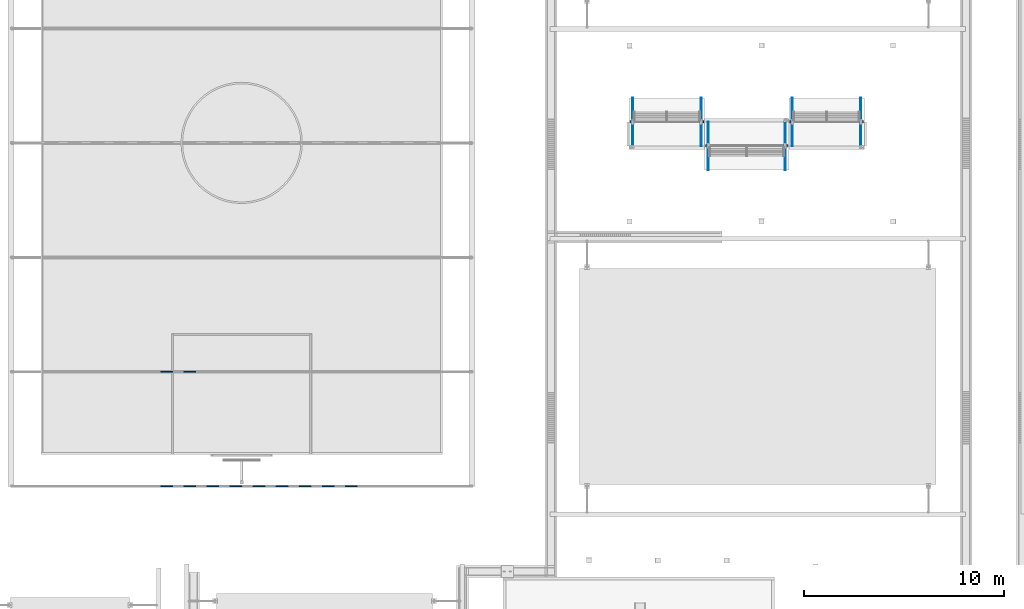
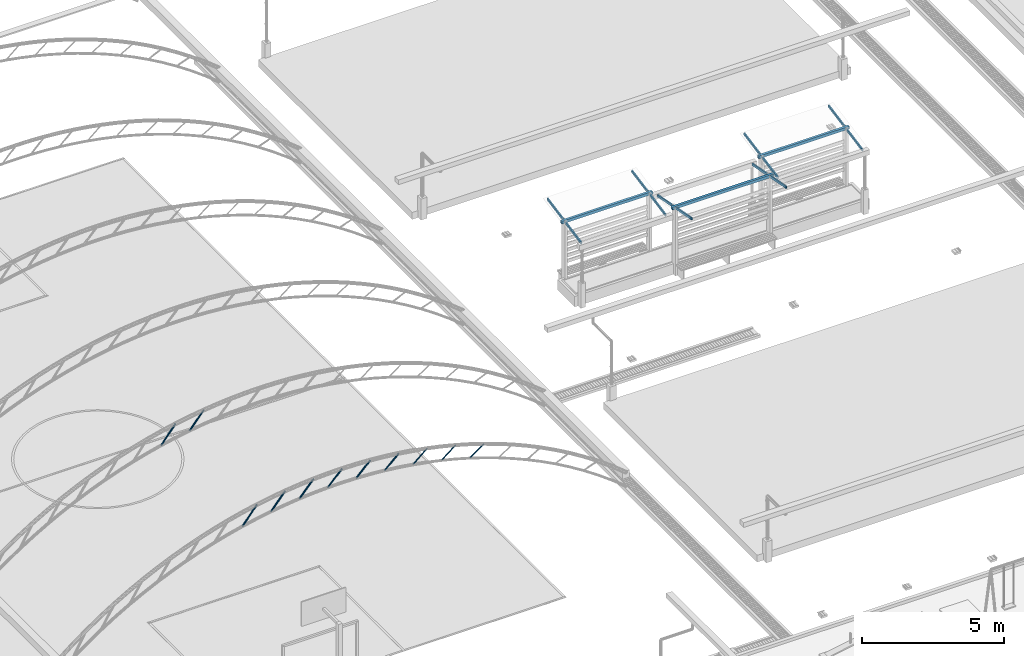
# One storey, part 17 of 90: 20 beams.
"""IFC2X3 building model written with IfcOpenShell, lengths in metres."""

from ifc_helpers import new_model, si_unit, origin, origin_with_axes, place, context, subcontext, project, spatial, faceted_brep, element, save


model = new_model("IFC2X3")

# Units and contexts
model_context = context("Model", 3, precision=1e-05, world=origin_with_axes())
body_context = subcontext(model_context, "Body", "Model", "MODEL_VIEW")
ifc_project = project(units=[si_unit("LENGTHUNIT", "METRE"), si_unit("AREAUNIT", "SQUARE_METRE"), si_unit("VOLUMEUNIT", "CUBIC_METRE"), si_unit("PLANEANGLEUNIT", "RADIAN")], contexts=[model_context])

# Site, building, storey
site_placement = place(None, origin_with_axes())
site = spatial("IfcSite", under=ifc_project, at=site_placement, Name="Predio Los Mangos - Morales, San Martín", CompositionType="ELEMENT")
building_placement = place(site_placement, origin())
building = spatial("IfcBuilding", under=site, at=building_placement, Name="Hogar de Refugio Temporal", CompositionType="ELEMENT")
storey_placement = place(building_placement, origin())
storey = spatial("IfcBuildingStorey", under=building, at=storey_placement, Name="NIVEL 1 (NPT +0.00)", CompositionType="ELEMENT", Elevation=0.0)

# Beams
beam_1_placement = place(storey_placement, origin())
element("IfcBeam", 1, at=beam_1_placement, inside=storey, Name="diag", ObjectType="Viga", context=body_context, shape_type="Brep", body=[
    faceted_brep([(10.9977, 92.6217, 9.0975), (11.5752, 92.6217, 9.8208), (11.585, 92.625, 9.813), (11.0075, 92.625, 9.0897), (10.9906, 92.6125, 9.1032), (11.5681, 92.6125, 9.8265), (10.988, 92.6, 9.1053), (11.5655, 92.6, 9.8286), (10.9906, 92.5875, 9.1032), (11.5681, 92.5875, 9.8265), (10.9977, 92.5783, 9.0975), (11.5752, 92.5783, 9.8208), (11.0075, 92.575, 9.0897), (11.585, 92.575, 9.813), (11.0173, 92.5783, 9.0819), (11.5948, 92.5783, 9.8052), (11.0244, 92.5875, 9.0762), (11.6019, 92.5875, 9.7995), (11.027, 92.6, 9.0741), (11.6045, 92.6, 9.7974), (11.0244, 92.6125, 9.0762), (11.6019, 92.6125, 9.7995), (11.0173, 92.6217, 9.0819), (11.5948, 92.6217, 9.8052), (11.0058, 92.6037, 9.091), (11.0075, 92.6043, 9.0897), (11.585, 92.6043, 9.813), (11.5833, 92.6037, 9.8143), (11.0046, 92.6021, 9.092), (11.5821, 92.6021, 9.8153), (11.0041, 92.6, 9.0924), (11.5816, 92.6, 9.8157), (11.0046, 92.5979, 9.092), (11.5821, 92.5979, 9.8153), (11.0058, 92.5963, 9.091), (11.5833, 92.5963, 9.8143), (11.0075, 92.5957, 9.0897), (11.585, 92.5957, 9.813), (11.0092, 92.5963, 9.0884), (11.5867, 92.5963, 9.8116), (11.0104, 92.5979, 9.0874), (11.5879, 92.5979, 9.8107), (11.0109, 92.6, 9.087), (11.5884, 92.6, 9.8103), (11.0104, 92.6021, 9.0874), (11.5879, 92.6021, 9.8107), (11.0092, 92.6037, 9.0884), (11.5867, 92.6037, 9.8116)], [[[0, 1, 2, 3]], [[4, 5, 1, 0]], [[6, 7, 5, 4]], [[8, 9, 7, 6]], [[10, 11, 9, 8]], [[12, 13, 11, 10]], [[14, 15, 13, 12]], [[16, 17, 15, 14]], [[18, 19, 17, 16]], [[20, 21, 19, 18]], [[22, 23, 21, 20]], [[3, 2, 23, 22]], [[24, 25, 26, 27]], [[28, 24, 27, 29]], [[30, 28, 29, 31]], [[32, 30, 31, 33]], [[34, 32, 33, 35]], [[36, 34, 35, 37]], [[38, 36, 37, 39]], [[40, 38, 39, 41]], [[42, 40, 41, 43]], [[44, 42, 43, 45]], [[46, 44, 45, 47]], [[25, 46, 47, 26]], [[11, 13, 37, 35]], [[21, 23, 47, 45]], [[4, 0, 24, 28]], [[14, 12, 36, 38]], [[3, 22, 46, 25]], [[7, 9, 33, 31]], [[17, 19, 43, 41]], [[23, 2, 26, 47]], [[10, 8, 32, 34]], [[20, 18, 42, 44]], [[1, 5, 29, 27]], [[13, 15, 39, 37]], [[6, 4, 28, 30]], [[16, 14, 38, 40]], [[0, 3, 25, 24]], [[9, 11, 35, 33]], [[19, 21, 45, 43]], [[12, 10, 34, 36]], [[22, 20, 44, 46]], [[5, 7, 31, 29]], [[15, 17, 41, 39]], [[2, 1, 27, 26]], [[8, 6, 30, 32]], [[18, 16, 40, 42]]]),
])
beam_2_placement = place(storey_placement, origin())
element("IfcBeam", 2, at=beam_2_placement, inside=storey, Name="diag", ObjectType="Viga", context=body_context, shape_type="Brep", body=[
    faceted_brep([(12.1529, 92.6217, 9.3247), (12.7304, 92.6217, 10.0091), (12.74, 92.625, 10.001), (12.1625, 92.625, 9.3166), (12.146, 92.6125, 9.3306), (12.7235, 92.6125, 10.015), (12.1434, 92.6, 9.3328), (12.7209, 92.6, 10.0171), (12.146, 92.5875, 9.3306), (12.7235, 92.5875, 10.015), (12.1529, 92.5783, 9.3247), (12.7304, 92.5783, 10.0091), (12.1625, 92.575, 9.3166), (12.74, 92.575, 10.001), (12.1721, 92.5783, 9.3086), (12.7496, 92.5783, 9.9929), (12.179, 92.5875, 9.3027), (12.7565, 92.5875, 9.987), (12.1816, 92.6, 9.3005), (12.7591, 92.6, 9.9849), (12.179, 92.6125, 9.3027), (12.7565, 92.6125, 9.987), (12.1721, 92.6217, 9.3086), (12.7496, 92.6217, 9.9929), (12.1609, 92.6037, 9.318), (12.1625, 92.6043, 9.3166), (12.74, 92.6043, 10.001), (12.7384, 92.6037, 10.0024), (12.1597, 92.6021, 9.319), (12.7372, 92.6021, 10.0034), (12.1592, 92.6, 9.3194), (12.7367, 92.6, 10.0038), (12.1597, 92.5979, 9.319), (12.7372, 92.5979, 10.0034), (12.1609, 92.5963, 9.318), (12.7384, 92.5963, 10.0024), (12.1625, 92.5957, 9.3166), (12.74, 92.5957, 10.001), (12.1641, 92.5963, 9.3153), (12.7416, 92.5963, 9.9996), (12.1653, 92.5979, 9.3142), (12.7428, 92.5979, 9.9986), (12.1658, 92.6, 9.3139), (12.7433, 92.6, 9.9982), (12.1653, 92.6021, 9.3142), (12.7428, 92.6021, 9.9986), (12.1641, 92.6037, 9.3153), (12.7416, 92.6037, 9.9996)], [[[0, 1, 2, 3]], [[4, 5, 1, 0]], [[6, 7, 5, 4]], [[8, 9, 7, 6]], [[10, 11, 9, 8]], [[12, 13, 11, 10]], [[14, 15, 13, 12]], [[16, 17, 15, 14]], [[18, 19, 17, 16]], [[20, 21, 19, 18]], [[22, 23, 21, 20]], [[3, 2, 23, 22]], [[24, 25, 26, 27]], [[28, 24, 27, 29]], [[30, 28, 29, 31]], [[32, 30, 31, 33]], [[34, 32, 33, 35]], [[36, 34, 35, 37]], [[38, 36, 37, 39]], [[40, 38, 39, 41]], [[42, 40, 41, 43]], [[44, 42, 43, 45]], [[46, 44, 45, 47]], [[25, 46, 47, 26]], [[11, 13, 37, 35]], [[21, 23, 47, 45]], [[4, 0, 24, 28]], [[14, 12, 36, 38]], [[3, 22, 46, 25]], [[7, 9, 33, 31]], [[17, 19, 43, 41]], [[23, 2, 26, 47]], [[10, 8, 32, 34]], [[20, 18, 42, 44]], [[1, 5, 29, 27]], [[13, 15, 39, 37]], [[6, 4, 28, 30]], [[16, 14, 38, 40]], [[0, 3, 25, 24]], [[9, 11, 35, 33]], [[19, 21, 45, 43]], [[12, 10, 34, 36]], [[22, 20, 44, 46]], [[5, 7, 31, 29]], [[15, 17, 41, 39]], [[2, 1, 27, 26]], [[8, 6, 30, 32]], [[18, 16, 40, 42]]]),
])
beam_3_placement = place(storey_placement, origin())
element("IfcBeam", 3, at=beam_3_placement, inside=storey, Name="diag", ObjectType="Viga", context=body_context, shape_type="Brep", body=[
    faceted_brep([(13.3082, 92.6217, 9.4747), (13.8857, 92.6217, 10.1212), (13.895, 92.625, 10.1129), (13.3175, 92.625, 9.4663), (13.3014, 92.6125, 9.4808), (13.8789, 92.6125, 10.1273), (13.2989, 92.6, 9.483), (13.8764, 92.6, 10.1295), (13.3014, 92.5875, 9.4808), (13.8789, 92.5875, 10.1273), (13.3082, 92.5783, 9.4747), (13.8857, 92.5783, 10.1212), (13.3175, 92.575, 9.4663), (13.895, 92.575, 10.1129), (13.3268, 92.5783, 9.458), (13.9043, 92.5783, 10.1045), (13.3336, 92.5875, 9.4519), (13.9111, 92.5875, 10.0984), (13.3361, 92.6, 9.4497), (13.9136, 92.6, 10.0962), (13.3336, 92.6125, 9.4519), (13.9111, 92.6125, 10.0984), (13.3268, 92.6217, 9.458), (13.9043, 92.6217, 10.1045), (13.3159, 92.6037, 9.4678), (13.3175, 92.6043, 9.4663), (13.895, 92.6043, 10.1129), (13.8934, 92.6037, 10.1143), (13.3147, 92.6021, 9.4688), (13.8922, 92.6021, 10.1153), (13.3143, 92.6, 9.4692), (13.8918, 92.6, 10.1157), (13.3147, 92.5979, 9.4688), (13.8922, 92.5979, 10.1153), (13.3159, 92.5963, 9.4678), (13.8934, 92.5963, 10.1143), (13.3175, 92.5957, 9.4663), (13.895, 92.5957, 10.1129), (13.3191, 92.5963, 9.4649), (13.8966, 92.5963, 10.1114), (13.3203, 92.5979, 9.4639), (13.8978, 92.5979, 10.1104), (13.3207, 92.6, 9.4635), (13.8982, 92.6, 10.11), (13.3203, 92.6021, 9.4639), (13.8978, 92.6021, 10.1104), (13.3191, 92.6037, 9.4649), (13.8966, 92.6037, 10.1114)], [[[0, 1, 2, 3]], [[4, 5, 1, 0]], [[6, 7, 5, 4]], [[8, 9, 7, 6]], [[10, 11, 9, 8]], [[12, 13, 11, 10]], [[14, 15, 13, 12]], [[16, 17, 15, 14]], [[18, 19, 17, 16]], [[20, 21, 19, 18]], [[22, 23, 21, 20]], [[3, 2, 23, 22]], [[24, 25, 26, 27]], [[28, 24, 27, 29]], [[30, 28, 29, 31]], [[32, 30, 31, 33]], [[34, 32, 33, 35]], [[36, 34, 35, 37]], [[38, 36, 37, 39]], [[40, 38, 39, 41]], [[42, 40, 41, 43]], [[44, 42, 43, 45]], [[46, 44, 45, 47]], [[25, 46, 47, 26]], [[11, 13, 37, 35]], [[21, 23, 47, 45]], [[4, 0, 24, 28]], [[14, 12, 36, 38]], [[3, 22, 46, 25]], [[7, 9, 33, 31]], [[17, 19, 43, 41]], [[23, 2, 26, 47]], [[10, 8, 32, 34]], [[20, 18, 42, 44]], [[1, 5, 29, 27]], [[13, 15, 39, 37]], [[6, 4, 28, 30]], [[16, 14, 38, 40]], [[0, 3, 25, 24]], [[9, 11, 35, 33]], [[19, 21, 45, 43]], [[12, 10, 34, 36]], [[22, 20, 44, 46]], [[5, 7, 31, 29]], [[15, 17, 41, 39]], [[2, 1, 27, 26]], [[8, 6, 30, 32]], [[18, 16, 40, 42]]]),
])
beam_4_placement = place(storey_placement, origin())
element("IfcBeam", 4, at=beam_4_placement, inside=storey, Name="diag", ObjectType="Viga", context=body_context, shape_type="Brep", body=[
    faceted_brep([(14.4634, 92.6217, 9.5493), (15.0409, 92.6217, 10.1586), (15.05, 92.625, 10.15), (14.4725, 92.625, 9.5407), (14.4568, 92.6125, 9.5556), (15.0343, 92.6125, 10.1649), (14.4544, 92.6, 9.5579), (15.0319, 92.6, 10.1672), (14.4568, 92.5875, 9.5556), (15.0343, 92.5875, 10.1649), (14.4634, 92.5783, 9.5493), (15.0409, 92.5783, 10.1586), (14.4725, 92.575, 9.5407), (15.05, 92.575, 10.15), (14.4816, 92.5783, 9.5321), (15.0591, 92.5783, 10.1414), (14.4882, 92.5875, 9.5258), (15.0657, 92.5875, 10.1351), (14.4906, 92.6, 9.5235), (15.0681, 92.6, 10.1328), (14.4882, 92.6125, 9.5258), (15.0657, 92.6125, 10.1351), (14.4816, 92.6217, 9.5321), (15.0591, 92.6217, 10.1414), (14.4709, 92.6037, 9.5422), (14.4725, 92.6043, 9.5407), (15.05, 92.6043, 10.15), (15.0484, 92.6037, 10.1515), (14.4698, 92.6021, 9.5433), (15.0473, 92.6021, 10.1526), (14.4694, 92.6, 9.5437), (15.0469, 92.6, 10.153), (14.4698, 92.5979, 9.5433), (15.0473, 92.5979, 10.1526), (14.4709, 92.5963, 9.5422), (15.0484, 92.5963, 10.1515), (14.4725, 92.5957, 9.5407), (15.05, 92.5957, 10.15), (14.4741, 92.5963, 9.5392), (15.0516, 92.5963, 10.1485), (14.4752, 92.5979, 9.5382), (15.0527, 92.5979, 10.1474), (14.4756, 92.6, 9.5378), (15.0531, 92.6, 10.147), (14.4752, 92.6021, 9.5382), (15.0527, 92.6021, 10.1474), (14.4741, 92.6037, 9.5392), (15.0516, 92.6037, 10.1485)], [[[0, 1, 2, 3]], [[4, 5, 1, 0]], [[6, 7, 5, 4]], [[8, 9, 7, 6]], [[10, 11, 9, 8]], [[12, 13, 11, 10]], [[14, 15, 13, 12]], [[16, 17, 15, 14]], [[18, 19, 17, 16]], [[20, 21, 19, 18]], [[22, 23, 21, 20]], [[3, 2, 23, 22]], [[24, 25, 26, 27]], [[28, 24, 27, 29]], [[30, 28, 29, 31]], [[32, 30, 31, 33]], [[34, 32, 33, 35]], [[36, 34, 35, 37]], [[38, 36, 37, 39]], [[40, 38, 39, 41]], [[42, 40, 41, 43]], [[44, 42, 43, 45]], [[46, 44, 45, 47]], [[25, 46, 47, 26]], [[11, 13, 37, 35]], [[21, 23, 47, 45]], [[4, 0, 24, 28]], [[14, 12, 36, 38]], [[3, 22, 46, 25]], [[7, 9, 33, 31]], [[17, 19, 43, 41]], [[23, 2, 26, 47]], [[10, 8, 32, 34]], [[20, 18, 42, 44]], [[1, 5, 29, 27]], [[13, 15, 39, 37]], [[6, 4, 28, 30]], [[16, 14, 38, 40]], [[0, 3, 25, 24]], [[9, 11, 35, 33]], [[19, 21, 45, 43]], [[12, 10, 34, 36]], [[22, 20, 44, 46]], [[5, 7, 31, 29]], [[15, 17, 41, 39]], [[2, 1, 27, 26]], [[8, 6, 30, 32]], [[18, 16, 40, 42]]]),
])
beam_5_placement = place(storey_placement, origin())
element("IfcBeam", 5, at=beam_5_placement, inside=storey, Name="diag", ObjectType="Viga", context=body_context, shape_type="Brep", body=[
    faceted_brep([(15.6187, 92.6217, 9.5496), (16.1962, 92.6217, 10.1217), (16.205, 92.625, 10.1129), (15.6275, 92.625, 9.5407), (15.6123, 92.6125, 9.5561), (16.1898, 92.6125, 10.1282), (15.6099, 92.6, 9.5585), (16.1874, 92.6, 10.1306), (15.6123, 92.5875, 9.5561), (16.1898, 92.5875, 10.1282), (15.6187, 92.5783, 9.5496), (16.1962, 92.5783, 10.1217), (15.6275, 92.575, 9.5407), (16.205, 92.575, 10.1129), (15.6363, 92.5783, 9.5318), (16.2138, 92.5783, 10.104), (15.6427, 92.5875, 9.5253), (16.2202, 92.5875, 10.0975), (15.6451, 92.6, 9.523), (16.2226, 92.6, 10.0951), (15.6427, 92.6125, 9.5253), (16.2202, 92.6125, 10.0975), (15.6363, 92.6217, 9.5318), (16.2138, 92.6217, 10.104), (15.626, 92.6037, 9.5422), (15.6275, 92.6043, 9.5407), (16.205, 92.6043, 10.1129), (16.2035, 92.6037, 10.1144), (15.6249, 92.6021, 9.5434), (16.2024, 92.6021, 10.1155), (15.6245, 92.6, 9.5438), (16.202, 92.6, 10.1159), (15.6249, 92.5979, 9.5434), (16.2024, 92.5979, 10.1155), (15.626, 92.5963, 9.5422), (16.2035, 92.5963, 10.1144), (15.6275, 92.5957, 9.5407), (16.205, 92.5957, 10.1129), (15.629, 92.5963, 9.5392), (16.2065, 92.5963, 10.1113), (15.6301, 92.5979, 9.5381), (16.2076, 92.5979, 10.1102), (15.6305, 92.6, 9.5377), (16.208, 92.6, 10.1098), (15.6301, 92.6021, 9.5381), (16.2076, 92.6021, 10.1102), (15.629, 92.6037, 9.5392), (16.2065, 92.6037, 10.1113)], [[[0, 1, 2, 3]], [[4, 5, 1, 0]], [[6, 7, 5, 4]], [[8, 9, 7, 6]], [[10, 11, 9, 8]], [[12, 13, 11, 10]], [[14, 15, 13, 12]], [[16, 17, 15, 14]], [[18, 19, 17, 16]], [[20, 21, 19, 18]], [[22, 23, 21, 20]], [[3, 2, 23, 22]], [[24, 25, 26, 27]], [[28, 24, 27, 29]], [[30, 28, 29, 31]], [[32, 30, 31, 33]], [[34, 32, 33, 35]], [[36, 34, 35, 37]], [[38, 36, 37, 39]], [[40, 38, 39, 41]], [[42, 40, 41, 43]], [[44, 42, 43, 45]], [[46, 44, 45, 47]], [[25, 46, 47, 26]], [[11, 13, 37, 35]], [[21, 23, 47, 45]], [[4, 0, 24, 28]], [[14, 12, 36, 38]], [[3, 22, 46, 25]], [[7, 9, 33, 31]], [[17, 19, 43, 41]], [[23, 2, 26, 47]], [[10, 8, 32, 34]], [[20, 18, 42, 44]], [[1, 5, 29, 27]], [[13, 15, 39, 37]], [[6, 4, 28, 30]], [[16, 14, 38, 40]], [[0, 3, 25, 24]], [[9, 11, 35, 33]], [[19, 21, 45, 43]], [[12, 10, 34, 36]], [[22, 20, 44, 46]], [[5, 7, 31, 29]], [[15, 17, 41, 39]], [[2, 1, 27, 26]], [[8, 6, 30, 32]], [[18, 16, 40, 42]]]),
])
beam_6_placement = place(storey_placement, origin())
element("IfcBeam", 6, at=beam_6_placement, inside=storey, Name="diag", ObjectType="Viga", context=body_context, shape_type="Brep", body=[
    faceted_brep([(16.774, 92.6217, 9.4755), (17.3515, 92.6217, 10.0102), (17.36, 92.625, 10.001), (16.7825, 92.625, 9.4663), (16.7678, 92.6125, 9.4822), (17.3453, 92.6125, 10.0169), (16.7655, 92.6, 9.4847), (17.343, 92.6, 10.0193), (16.7678, 92.5875, 9.4822), (17.3453, 92.5875, 10.0169), (16.774, 92.5783, 9.4755), (17.3515, 92.5783, 10.0102), (16.7825, 92.575, 9.4663), (17.36, 92.575, 10.001), (16.791, 92.5783, 9.4572), (17.3685, 92.5783, 9.9918), (16.7972, 92.5875, 9.4505), (17.3747, 92.5875, 9.9851), (16.7995, 92.6, 9.448), (17.377, 92.6, 9.9827), (16.7972, 92.6125, 9.4505), (17.3747, 92.6125, 9.9851), (16.791, 92.6217, 9.4572), (17.3685, 92.6217, 9.9918), (16.781, 92.6037, 9.4679), (16.7825, 92.6043, 9.4663), (17.36, 92.6043, 10.001), (17.3585, 92.6037, 10.0026), (16.78, 92.6021, 9.4691), (17.3575, 92.6021, 10.0037), (16.7796, 92.6, 9.4695), (17.3571, 92.6, 10.0042), (16.78, 92.5979, 9.4691), (17.3575, 92.5979, 10.0037), (16.781, 92.5963, 9.4679), (17.3585, 92.5963, 10.0026), (16.7825, 92.5957, 9.4663), (17.36, 92.5957, 10.001), (16.784, 92.5963, 9.4648), (17.3615, 92.5963, 9.9994), (16.785, 92.5979, 9.4636), (17.3625, 92.5979, 9.9983), (16.7854, 92.6, 9.4632), (17.3629, 92.6, 9.9979), (16.785, 92.6021, 9.4636), (17.3625, 92.6021, 9.9983), (16.784, 92.6037, 9.4648), (17.3615, 92.6037, 9.9994)], [[[0, 1, 2, 3]], [[4, 5, 1, 0]], [[6, 7, 5, 4]], [[8, 9, 7, 6]], [[10, 11, 9, 8]], [[12, 13, 11, 10]], [[14, 15, 13, 12]], [[16, 17, 15, 14]], [[18, 19, 17, 16]], [[20, 21, 19, 18]], [[22, 23, 21, 20]], [[3, 2, 23, 22]], [[24, 25, 26, 27]], [[28, 24, 27, 29]], [[30, 28, 29, 31]], [[32, 30, 31, 33]], [[34, 32, 33, 35]], [[36, 34, 35, 37]], [[38, 36, 37, 39]], [[40, 38, 39, 41]], [[42, 40, 41, 43]], [[44, 42, 43, 45]], [[46, 44, 45, 47]], [[25, 46, 47, 26]], [[11, 13, 37, 35]], [[21, 23, 47, 45]], [[4, 0, 24, 28]], [[14, 12, 36, 38]], [[3, 22, 46, 25]], [[7, 9, 33, 31]], [[17, 19, 43, 41]], [[23, 2, 26, 47]], [[10, 8, 32, 34]], [[20, 18, 42, 44]], [[1, 5, 29, 27]], [[13, 15, 39, 37]], [[6, 4, 28, 30]], [[16, 14, 38, 40]], [[0, 3, 25, 24]], [[9, 11, 35, 33]], [[19, 21, 45, 43]], [[12, 10, 34, 36]], [[22, 20, 44, 46]], [[5, 7, 31, 29]], [[15, 17, 41, 39]], [[2, 1, 27, 26]], [[8, 6, 30, 32]], [[18, 16, 40, 42]]]),
])
beam_7_placement = place(storey_placement, origin())
element("IfcBeam", 7, at=beam_7_placement, inside=storey, Name="diag", ObjectType="Viga", context=body_context, shape_type="Brep", body=[
    faceted_brep([(17.9294, 92.6217, 9.3261), (18.5069, 92.6217, 9.8225), (18.515, 92.625, 9.813), (17.9375, 92.625, 9.3166), (17.9234, 92.6125, 9.3331), (18.5009, 92.6125, 9.8294), (17.9212, 92.6, 9.3356), (18.4987, 92.6, 9.8319), (17.9234, 92.5875, 9.3331), (18.5009, 92.5875, 9.8294), (17.9294, 92.5783, 9.3261), (18.5069, 92.5783, 9.8225), (17.9375, 92.575, 9.3166), (18.515, 92.575, 9.813), (17.9456, 92.5783, 9.3072), (18.5231, 92.5783, 9.8035), (17.9516, 92.5875, 9.3002), (18.5291, 92.5875, 9.7966), (17.9538, 92.6, 9.2977), (18.5313, 92.6, 9.794), (17.9516, 92.6125, 9.3002), (18.5291, 92.6125, 9.7966), (17.9456, 92.6217, 9.3072), (18.5231, 92.6217, 9.8035), (17.9361, 92.6037, 9.3183), (17.9375, 92.6043, 9.3166), (18.515, 92.6043, 9.813), (18.5136, 92.6037, 9.8146), (17.9351, 92.6021, 9.3195), (18.5126, 92.6021, 9.8158), (17.9347, 92.6, 9.3199), (18.5122, 92.6, 9.8162), (17.9351, 92.5979, 9.3195), (18.5126, 92.5979, 9.8158), (17.9361, 92.5963, 9.3183), (18.5136, 92.5963, 9.8146), (17.9375, 92.5957, 9.3166), (18.515, 92.5957, 9.813), (17.9389, 92.5963, 9.315), (18.5164, 92.5963, 9.8114), (17.9399, 92.5979, 9.3138), (18.5174, 92.5979, 9.8102), (17.9403, 92.6, 9.3134), (18.5178, 92.6, 9.8097), (17.9399, 92.6021, 9.3138), (18.5174, 92.6021, 9.8102), (17.9389, 92.6037, 9.315), (18.5164, 92.6037, 9.8114)], [[[0, 1, 2, 3]], [[4, 5, 1, 0]], [[6, 7, 5, 4]], [[8, 9, 7, 6]], [[10, 11, 9, 8]], [[12, 13, 11, 10]], [[14, 15, 13, 12]], [[16, 17, 15, 14]], [[18, 19, 17, 16]], [[20, 21, 19, 18]], [[22, 23, 21, 20]], [[3, 2, 23, 22]], [[24, 25, 26, 27]], [[28, 24, 27, 29]], [[30, 28, 29, 31]], [[32, 30, 31, 33]], [[34, 32, 33, 35]], [[36, 34, 35, 37]], [[38, 36, 37, 39]], [[40, 38, 39, 41]], [[42, 40, 41, 43]], [[44, 42, 43, 45]], [[46, 44, 45, 47]], [[25, 46, 47, 26]], [[11, 13, 37, 35]], [[21, 23, 47, 45]], [[4, 0, 24, 28]], [[14, 12, 36, 38]], [[3, 22, 46, 25]], [[7, 9, 33, 31]], [[17, 19, 43, 41]], [[23, 2, 26, 47]], [[10, 8, 32, 34]], [[20, 18, 42, 44]], [[1, 5, 29, 27]], [[13, 15, 39, 37]], [[6, 4, 28, 30]], [[16, 14, 38, 40]], [[0, 3, 25, 24]], [[9, 11, 35, 33]], [[19, 21, 45, 43]], [[12, 10, 34, 36]], [[22, 20, 44, 46]], [[5, 7, 31, 29]], [[15, 17, 41, 39]], [[2, 1, 27, 26]], [[8, 6, 30, 32]], [[18, 16, 40, 42]]]),
])
beam_8_placement = place(storey_placement, origin())
element("IfcBeam", 8, at=beam_8_placement, inside=storey, Name="diag", ObjectType="Viga", context=body_context, shape_type="Brep", body=[
    faceted_brep([(19.0847, 92.6217, 9.0995), (19.6622, 92.6217, 9.5562), (19.67, 92.625, 9.5463), (19.0925, 92.625, 9.0897), (19.0791, 92.6125, 9.1067), (19.6566, 92.6125, 9.5633), (19.077, 92.6, 9.1093), (19.6545, 92.6, 9.566), (19.0791, 92.5875, 9.1067), (19.6566, 92.5875, 9.5633), (19.0847, 92.5783, 9.0995), (19.6622, 92.5783, 9.5562), (19.0925, 92.575, 9.0897), (19.67, 92.575, 9.5463), (19.1003, 92.5783, 9.0799), (19.6778, 92.5783, 9.5365), (19.1059, 92.5875, 9.0727), (19.6834, 92.5875, 9.5294), (19.108, 92.6, 9.0701), (19.6855, 92.6, 9.5267), (19.1059, 92.6125, 9.0727), (19.6834, 92.6125, 9.5294), (19.1003, 92.6217, 9.0799), (19.6778, 92.6217, 9.5365), (19.0912, 92.6037, 9.0914), (19.0925, 92.6043, 9.0897), (19.67, 92.6043, 9.5463), (19.6687, 92.6037, 9.548), (19.0902, 92.6021, 9.0926), (19.6677, 92.6021, 9.5493), (19.0898, 92.6, 9.0931), (19.6673, 92.6, 9.5497), (19.0902, 92.5979, 9.0926), (19.6677, 92.5979, 9.5493), (19.0912, 92.5963, 9.0914), (19.6687, 92.5963, 9.548), (19.0925, 92.5957, 9.0897), (19.67, 92.5957, 9.5463), (19.0938, 92.5963, 9.088), (19.6713, 92.5963, 9.5447), (19.0948, 92.5979, 9.0868), (19.6723, 92.5979, 9.5434), (19.0952, 92.6, 9.0863), (19.6727, 92.6, 9.543), (19.0948, 92.6021, 9.0868), (19.6723, 92.6021, 9.5434), (19.0938, 92.6037, 9.088), (19.6713, 92.6037, 9.5447)], [[[0, 1, 2, 3]], [[4, 5, 1, 0]], [[6, 7, 5, 4]], [[8, 9, 7, 6]], [[10, 11, 9, 8]], [[12, 13, 11, 10]], [[14, 15, 13, 12]], [[16, 17, 15, 14]], [[18, 19, 17, 16]], [[20, 21, 19, 18]], [[22, 23, 21, 20]], [[3, 2, 23, 22]], [[24, 25, 26, 27]], [[28, 24, 27, 29]], [[30, 28, 29, 31]], [[32, 30, 31, 33]], [[34, 32, 33, 35]], [[36, 34, 35, 37]], [[38, 36, 37, 39]], [[40, 38, 39, 41]], [[42, 40, 41, 43]], [[44, 42, 43, 45]], [[46, 44, 45, 47]], [[25, 46, 47, 26]], [[11, 13, 37, 35]], [[21, 23, 47, 45]], [[4, 0, 24, 28]], [[14, 12, 36, 38]], [[3, 22, 46, 25]], [[7, 9, 33, 31]], [[17, 19, 43, 41]], [[23, 2, 26, 47]], [[10, 8, 32, 34]], [[20, 18, 42, 44]], [[1, 5, 29, 27]], [[13, 15, 39, 37]], [[6, 4, 28, 30]], [[16, 14, 38, 40]], [[0, 3, 25, 24]], [[9, 11, 35, 33]], [[19, 21, 45, 43]], [[12, 10, 34, 36]], [[22, 20, 44, 46]], [[5, 7, 31, 29]], [[15, 17, 41, 39]], [[2, 1, 27, 26]], [[8, 6, 30, 32]], [[18, 16, 40, 42]]]),
])
beam_9_placement = place(storey_placement, origin())
element("IfcBeam", 9, at=beam_9_placement, inside=storey, Name="diag", ObjectType="Viga", context=body_context, shape_type="Brep", body=[
    faceted_brep([(20.2402, 92.6217, 8.7926), (20.8177, 92.6217, 9.2075), (20.825, 92.625, 9.1974), (20.2475, 92.625, 8.7824), (20.2349, 92.6125, 8.8), (20.8124, 92.6125, 9.215), (20.2329, 92.6, 8.8027), (20.8104, 92.6, 9.2177), (20.2349, 92.5875, 8.8), (20.8124, 92.5875, 9.215), (20.2402, 92.5783, 8.7926), (20.8177, 92.5783, 9.2075), (20.2475, 92.575, 8.7824), (20.825, 92.575, 9.1974), (20.2548, 92.5783, 8.7723), (20.8323, 92.5783, 9.1872), (20.2601, 92.5875, 8.7649), (20.8376, 92.5875, 9.1798), (20.2621, 92.6, 8.7621), (20.8396, 92.6, 9.1771), (20.2601, 92.6125, 8.7649), (20.8376, 92.6125, 9.1798), (20.2548, 92.6217, 8.7723), (20.8323, 92.6217, 9.1872), (20.2462, 92.6037, 8.7842), (20.2475, 92.6043, 8.7824), (20.825, 92.6043, 9.1974), (20.8237, 92.6037, 9.1991), (20.2453, 92.6021, 8.7855), (20.8228, 92.6021, 9.2004), (20.245, 92.6, 8.7859), (20.8225, 92.6, 9.2009), (20.2453, 92.5979, 8.7855), (20.8228, 92.5979, 9.2004), (20.2462, 92.5963, 8.7842), (20.8237, 92.5963, 9.1991), (20.2475, 92.5957, 8.7824), (20.825, 92.5957, 9.1974), (20.2488, 92.5963, 8.7807), (20.8263, 92.5963, 9.1957), (20.2497, 92.5979, 8.7794), (20.8272, 92.5979, 9.1944), (20.25, 92.6, 8.779), (20.8275, 92.6, 9.1939), (20.2497, 92.6021, 8.7794), (20.8272, 92.6021, 9.1944), (20.2488, 92.6037, 8.7807), (20.8263, 92.6037, 9.1957)], [[[0, 1, 2, 3]], [[4, 5, 1, 0]], [[6, 7, 5, 4]], [[8, 9, 7, 6]], [[10, 11, 9, 8]], [[12, 13, 11, 10]], [[14, 15, 13, 12]], [[16, 17, 15, 14]], [[18, 19, 17, 16]], [[20, 21, 19, 18]], [[22, 23, 21, 20]], [[3, 2, 23, 22]], [[24, 25, 26, 27]], [[28, 24, 27, 29]], [[30, 28, 29, 31]], [[32, 30, 31, 33]], [[34, 32, 33, 35]], [[36, 34, 35, 37]], [[38, 36, 37, 39]], [[40, 38, 39, 41]], [[42, 40, 41, 43]], [[44, 42, 43, 45]], [[46, 44, 45, 47]], [[25, 46, 47, 26]], [[11, 13, 37, 35]], [[21, 23, 47, 45]], [[4, 0, 24, 28]], [[14, 12, 36, 38]], [[3, 22, 46, 25]], [[7, 9, 33, 31]], [[17, 19, 43, 41]], [[23, 2, 26, 47]], [[10, 8, 32, 34]], [[20, 18, 42, 44]], [[1, 5, 29, 27]], [[13, 15, 39, 37]], [[6, 4, 28, 30]], [[16, 14, 38, 40]], [[0, 3, 25, 24]], [[9, 11, 35, 33]], [[19, 21, 45, 43]], [[12, 10, 34, 36]], [[22, 20, 44, 46]], [[5, 7, 31, 29]], [[15, 17, 41, 39]], [[2, 1, 27, 26]], [[8, 6, 30, 32]], [[18, 16, 40, 42]]]),
])
beam_10_placement = place(storey_placement, origin())
element("IfcBeam", 10, at=beam_10_placement, inside=storey, Name="diag", ObjectType="Viga", context=body_context, shape_type="Brep", body=[
    faceted_brep([(10.9977, 98.355, 9.0975), (11.5752, 98.355, 9.8208), (11.585, 98.3583, 9.813), (11.0075, 98.3583, 9.0897), (10.9906, 98.3458, 9.1032), (11.5681, 98.3458, 9.8265), (10.988, 98.3333, 9.1053), (11.5655, 98.3333, 9.8286), (10.9906, 98.3208, 9.1032), (11.5681, 98.3208, 9.8265), (10.9977, 98.3117, 9.0975), (11.5752, 98.3117, 9.8208), (11.0075, 98.3083, 9.0897), (11.585, 98.3083, 9.813), (11.0173, 98.3117, 9.0819), (11.5948, 98.3117, 9.8052), (11.0244, 98.3208, 9.0762), (11.6019, 98.3208, 9.7995), (11.027, 98.3333, 9.0741), (11.6045, 98.3333, 9.7974), (11.0244, 98.3458, 9.0762), (11.6019, 98.3458, 9.7995), (11.0173, 98.355, 9.0819), (11.5948, 98.355, 9.8052), (11.0058, 98.3371, 9.091), (11.0075, 98.3376, 9.0897), (11.585, 98.3376, 9.813), (11.5833, 98.3371, 9.8143), (11.0046, 98.3355, 9.092), (11.5821, 98.3355, 9.8153), (11.0041, 98.3333, 9.0924), (11.5816, 98.3333, 9.8157), (11.0046, 98.3312, 9.092), (11.5821, 98.3312, 9.8153), (11.0058, 98.3296, 9.091), (11.5833, 98.3296, 9.8143), (11.0075, 98.329, 9.0897), (11.585, 98.329, 9.813), (11.0092, 98.3296, 9.0884), (11.5867, 98.3296, 9.8116), (11.0104, 98.3312, 9.0874), (11.5879, 98.3312, 9.8107), (11.0109, 98.3333, 9.087), (11.5884, 98.3333, 9.8103), (11.0104, 98.3355, 9.0874), (11.5879, 98.3355, 9.8107), (11.0092, 98.3371, 9.0884), (11.5867, 98.3371, 9.8116)], [[[0, 1, 2, 3]], [[4, 5, 1, 0]], [[6, 7, 5, 4]], [[8, 9, 7, 6]], [[10, 11, 9, 8]], [[12, 13, 11, 10]], [[14, 15, 13, 12]], [[16, 17, 15, 14]], [[18, 19, 17, 16]], [[20, 21, 19, 18]], [[22, 23, 21, 20]], [[3, 2, 23, 22]], [[24, 25, 26, 27]], [[28, 24, 27, 29]], [[30, 28, 29, 31]], [[32, 30, 31, 33]], [[34, 32, 33, 35]], [[36, 34, 35, 37]], [[38, 36, 37, 39]], [[40, 38, 39, 41]], [[42, 40, 41, 43]], [[44, 42, 43, 45]], [[46, 44, 45, 47]], [[25, 46, 47, 26]], [[11, 13, 37, 35]], [[21, 23, 47, 45]], [[4, 0, 24, 28]], [[14, 12, 36, 38]], [[3, 22, 46, 25]], [[7, 9, 33, 31]], [[17, 19, 43, 41]], [[23, 2, 26, 47]], [[10, 8, 32, 34]], [[20, 18, 42, 44]], [[1, 5, 29, 27]], [[13, 15, 39, 37]], [[6, 4, 28, 30]], [[16, 14, 38, 40]], [[0, 3, 25, 24]], [[9, 11, 35, 33]], [[19, 21, 45, 43]], [[12, 10, 34, 36]], [[22, 20, 44, 46]], [[5, 7, 31, 29]], [[15, 17, 41, 39]], [[2, 1, 27, 26]], [[8, 6, 30, 32]], [[18, 16, 40, 42]]]),
])
beam_11_placement = place(storey_placement, origin())
element("IfcBeam", 11, at=beam_11_placement, inside=storey, Name="diag", ObjectType="Viga", context=body_context, shape_type="Brep", body=[
    faceted_brep([(12.1529, 98.355, 9.3247), (12.7304, 98.355, 10.0091), (12.74, 98.3583, 10.001), (12.1625, 98.3583, 9.3166), (12.146, 98.3458, 9.3306), (12.7235, 98.3458, 10.015), (12.1434, 98.3333, 9.3328), (12.7209, 98.3333, 10.0171), (12.146, 98.3208, 9.3306), (12.7235, 98.3208, 10.015), (12.1529, 98.3117, 9.3247), (12.7304, 98.3117, 10.0091), (12.1625, 98.3083, 9.3166), (12.74, 98.3083, 10.001), (12.1721, 98.3117, 9.3086), (12.7496, 98.3117, 9.9929), (12.179, 98.3208, 9.3027), (12.7565, 98.3208, 9.987), (12.1816, 98.3333, 9.3005), (12.7591, 98.3333, 9.9849), (12.179, 98.3458, 9.3027), (12.7565, 98.3458, 9.987), (12.1721, 98.355, 9.3086), (12.7496, 98.355, 9.9929), (12.1609, 98.3371, 9.318), (12.1625, 98.3376, 9.3166), (12.74, 98.3376, 10.001), (12.7384, 98.3371, 10.0024), (12.1597, 98.3355, 9.319), (12.7372, 98.3355, 10.0034), (12.1592, 98.3333, 9.3194), (12.7367, 98.3333, 10.0038), (12.1597, 98.3312, 9.319), (12.7372, 98.3312, 10.0034), (12.1609, 98.3296, 9.318), (12.7384, 98.3296, 10.0024), (12.1625, 98.329, 9.3166), (12.74, 98.329, 10.001), (12.1641, 98.3296, 9.3153), (12.7416, 98.3296, 9.9996), (12.1653, 98.3312, 9.3142), (12.7428, 98.3312, 9.9986), (12.1658, 98.3333, 9.3139), (12.7433, 98.3333, 9.9982), (12.1653, 98.3355, 9.3142), (12.7428, 98.3355, 9.9986), (12.1641, 98.3371, 9.3153), (12.7416, 98.3371, 9.9996)], [[[0, 1, 2, 3]], [[4, 5, 1, 0]], [[6, 7, 5, 4]], [[8, 9, 7, 6]], [[10, 11, 9, 8]], [[12, 13, 11, 10]], [[14, 15, 13, 12]], [[16, 17, 15, 14]], [[18, 19, 17, 16]], [[20, 21, 19, 18]], [[22, 23, 21, 20]], [[3, 2, 23, 22]], [[24, 25, 26, 27]], [[28, 24, 27, 29]], [[30, 28, 29, 31]], [[32, 30, 31, 33]], [[34, 32, 33, 35]], [[36, 34, 35, 37]], [[38, 36, 37, 39]], [[40, 38, 39, 41]], [[42, 40, 41, 43]], [[44, 42, 43, 45]], [[46, 44, 45, 47]], [[25, 46, 47, 26]], [[11, 13, 37, 35]], [[21, 23, 47, 45]], [[4, 0, 24, 28]], [[14, 12, 36, 38]], [[3, 22, 46, 25]], [[7, 9, 33, 31]], [[17, 19, 43, 41]], [[23, 2, 26, 47]], [[10, 8, 32, 34]], [[20, 18, 42, 44]], [[1, 5, 29, 27]], [[13, 15, 39, 37]], [[6, 4, 28, 30]], [[16, 14, 38, 40]], [[0, 3, 25, 24]], [[9, 11, 35, 33]], [[19, 21, 45, 43]], [[12, 10, 34, 36]], [[22, 20, 44, 46]], [[5, 7, 31, 29]], [[15, 17, 41, 39]], [[2, 1, 27, 26]], [[8, 6, 30, 32]], [[18, 16, 40, 42]]]),
])
beam_12_placement = place(storey_placement, origin())
element("IfcBeam", 12, at=beam_12_placement, inside=storey, Name="oc01_viga", ObjectType="Viga", context=body_context, shape_type="Brep", body=[
    faceted_brep([(46.195, 110.9, 2.81), (46.195, 110.8, 2.81), (42.505, 110.8, 2.81), (42.505, 110.9, 2.81), (46.195, 110.9, 2.93), (42.505, 110.9, 2.93), (42.505, 110.8, 2.93), (46.195, 110.8, 2.93)], [[[0, 1, 2, 3]], [[4, 5, 6, 7]], [[0, 3, 5, 4]], [[3, 2, 6, 5]], [[2, 1, 7, 6]], [[1, 0, 4, 7]]]),
])
beam_13_placement = place(storey_placement, origin())
element("IfcBeam", 13, at=beam_13_placement, inside=storey, Name="oc01_correa", ObjectType="Viga", context=body_context, shape_type="Brep", body=[
    faceted_brep([(46.09, 109.6594, 2.5909), (46.04, 109.6594, 2.5909), (46.04, 112.0594, 3.0509), (46.09, 112.0594, 3.0509), (46.09, 109.6406, 2.6891), (46.09, 112.0406, 3.1491), (46.04, 112.0406, 3.1491), (46.04, 109.6406, 2.6891)], [[[0, 1, 2, 3]], [[4, 5, 6, 7]], [[0, 3, 5, 4]], [[3, 2, 6, 5]], [[2, 1, 7, 6]], [[1, 0, 4, 7]]]),
])
beam_14_placement = place(storey_placement, origin())
element("IfcBeam", 14, at=beam_14_placement, inside=storey, Name="oc01_correa", ObjectType="Viga", context=body_context, shape_type="Brep", body=[
    faceted_brep([(42.66, 109.6594, 2.5909), (42.61, 109.6594, 2.5909), (42.61, 112.0594, 3.0509), (42.66, 112.0594, 3.0509), (42.66, 109.6406, 2.6891), (42.66, 112.0406, 3.1491), (42.61, 112.0406, 3.1491), (42.61, 109.6406, 2.6891)], [[[0, 1, 2, 3]], [[4, 5, 6, 7]], [[0, 3, 5, 4]], [[3, 2, 6, 5]], [[2, 1, 7, 6]], [[1, 0, 4, 7]]]),
])
beam_15_placement = place(storey_placement, origin())
element("IfcBeam", 15, at=beam_15_placement, inside=storey, Name="oc01_viga", ObjectType="Viga", context=body_context, shape_type="Brep", body=[
    faceted_brep([(42.405, 109.7, 2.81), (42.405, 109.6, 2.81), (38.295, 109.6, 2.81), (38.295, 109.7, 2.81), (42.405, 109.7, 2.93), (38.295, 109.7, 2.93), (38.295, 109.6, 2.93), (42.405, 109.6, 2.93)], [[[0, 1, 2, 3]], [[4, 5, 6, 7]], [[0, 3, 5, 4]], [[3, 2, 6, 5]], [[2, 1, 7, 6]], [[1, 0, 4, 7]]]),
])
beam_16_placement = place(storey_placement, origin())
element("IfcBeam", 16, at=beam_16_placement, inside=storey, Name="oc01_correa", ObjectType="Viga", context=body_context, shape_type="Brep", body=[
    faceted_brep([(42.25, 110.8406, 2.5909), (42.3, 110.8406, 2.5909), (42.3, 108.4406, 3.0509), (42.25, 108.4406, 3.0509), (42.25, 110.8594, 2.6891), (42.25, 108.4594, 3.1491), (42.3, 108.4594, 3.1491), (42.3, 110.8594, 2.6891)], [[[0, 1, 2, 3]], [[4, 5, 6, 7]], [[0, 3, 5, 4]], [[3, 2, 6, 5]], [[2, 1, 7, 6]], [[1, 0, 4, 7]]]),
])
beam_17_placement = place(storey_placement, origin())
element("IfcBeam", 17, at=beam_17_placement, inside=storey, Name="oc01_correa", ObjectType="Viga", context=body_context, shape_type="Brep", body=[
    faceted_brep([(38.4, 110.8406, 2.5909), (38.45, 110.8406, 2.5909), (38.45, 108.4406, 3.0509), (38.4, 108.4406, 3.0509), (38.4, 110.8594, 2.6891), (38.4, 108.4594, 3.1491), (38.45, 108.4594, 3.1491), (38.45, 110.8594, 2.6891)], [[[0, 1, 2, 3]], [[4, 5, 6, 7]], [[0, 3, 5, 4]], [[3, 2, 6, 5]], [[2, 1, 7, 6]], [[1, 0, 4, 7]]]),
])
beam_18_placement = place(storey_placement, origin())
element("IfcBeam", 18, at=beam_18_placement, inside=storey, Name="oc01_viga", ObjectType="Viga", context=body_context, shape_type="Brep", body=[
    faceted_brep([(38.195, 110.9, 2.81), (38.195, 110.8, 2.81), (34.505, 110.8, 2.81), (34.505, 110.9, 2.81), (38.195, 110.9, 2.93), (34.505, 110.9, 2.93), (34.505, 110.8, 2.93), (38.195, 110.8, 2.93)], [[[0, 1, 2, 3]], [[4, 5, 6, 7]], [[0, 3, 5, 4]], [[3, 2, 6, 5]], [[2, 1, 7, 6]], [[1, 0, 4, 7]]]),
])
beam_19_placement = place(storey_placement, origin())
element("IfcBeam", 19, at=beam_19_placement, inside=storey, Name="oc01_correa", ObjectType="Viga", context=body_context, shape_type="Brep", body=[
    faceted_brep([(38.09, 109.6594, 2.5909), (38.04, 109.6594, 2.5909), (38.04, 112.0594, 3.0509), (38.09, 112.0594, 3.0509), (38.09, 109.6406, 2.6891), (38.09, 112.0406, 3.1491), (38.04, 112.0406, 3.1491), (38.04, 109.6406, 2.6891)], [[[0, 1, 2, 3]], [[4, 5, 6, 7]], [[0, 3, 5, 4]], [[3, 2, 6, 5]], [[2, 1, 7, 6]], [[1, 0, 4, 7]]]),
])
beam_20_placement = place(storey_placement, origin())
element("IfcBeam", 20, at=beam_20_placement, inside=storey, Name="oc01_correa", ObjectType="Viga", context=body_context, shape_type="Brep", body=[
    faceted_brep([(34.66, 109.6594, 2.5909), (34.61, 109.6594, 2.5909), (34.61, 112.0594, 3.0509), (34.66, 112.0594, 3.0509), (34.66, 109.6406, 2.6891), (34.66, 112.0406, 3.1491), (34.61, 112.0406, 3.1491), (34.61, 109.6406, 2.6891)], [[[0, 1, 2, 3]], [[4, 5, 6, 7]], [[0, 3, 5, 4]], [[3, 2, 6, 5]], [[2, 1, 7, 6]], [[1, 0, 4, 7]]]),
])

save(model, "model.ifc")
